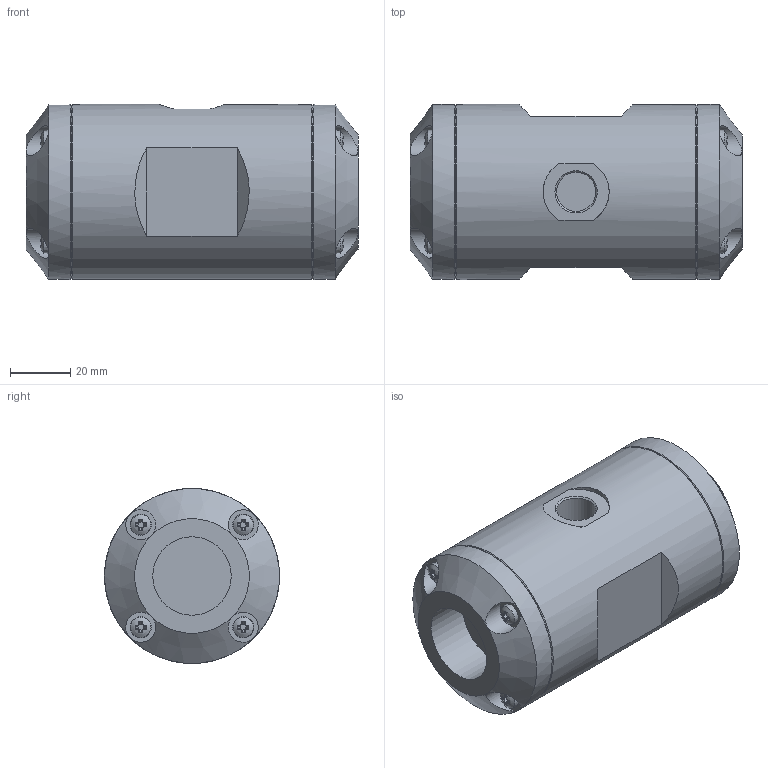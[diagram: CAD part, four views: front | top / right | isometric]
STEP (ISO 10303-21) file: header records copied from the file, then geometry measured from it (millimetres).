
FILE_DESCRIPTION((''),'2;1');
FILE_NAME('U:\AirCom-Produktdokumentation\Quetschventil\QP\Zeichnungen\CAD-Aircom\3D\B-QP20-06NR.stp','2012-02-28T14:54:07',('frank schroers'),(''),'Autodesk Inventor 2008','Autodesk Inventor 2008','');
FILE_SCHEMA(('AUTOMOTIVE_DESIGN { 1 0 10303 214 1 1 1 1 }'));
Length unit declared in the file: millimetre
Products named in the file (3): B-QP20-06NR; DIN 7985 (H) M3,5x12-H
Assembly tree (9 placements, depth 2):
  B-QP20-06NR
    B-QP20-06NR
    DIN 7985 (H) M3,5x12-H  x8
Bounding box: 110 x 58 x 58 mm (x, y, z)
Volume: 253578.4 mm3; surface area: 30353.9 mm2
Topology: 9 solids, 9 shells, 369 faces, 911 edges, 581 vertices
Faces by surface type: plane 180, cone 133, cylinder 40, sphere 8, bspline 8
Full cylindrical faces by diameter (mm): 3.2 x8, 3.5 x8, 4 x8, 10 x8, 13 x1, 26 x2, 58 x3
Entity records: 3364 total; most frequent: CARTESIAN_POINT 1221, DIRECTION 468, ORIENTED_EDGE 358, AXIS2_PLACEMENT_3D 213, EDGE_CURVE 179, EDGE_LOOP 144, VERTEX_POINT 121, FACE_OUTER_BOUND 103
